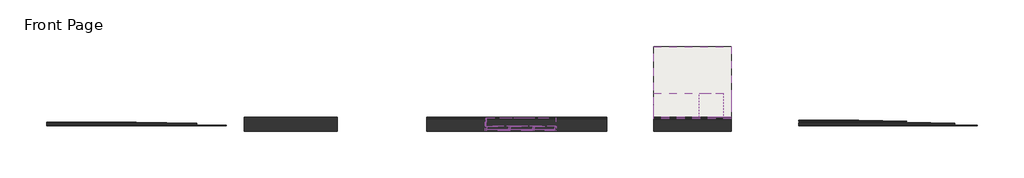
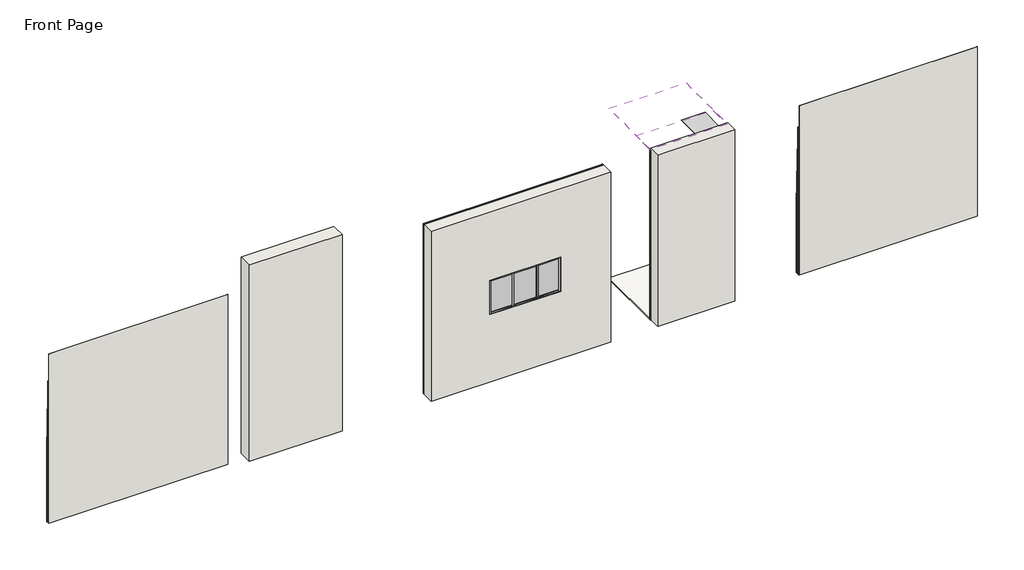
# One storey: 28 walls, 10 members, 3 plates, 3 slabs, 2 coverings, 1 proxy.
"""IFC4 building model written with IfcOpenShell, lengths in millimetres."""

from ifc_helpers import new_model, si_unit, frame, origin, origin_with_axes, place, context, project, spatial, polyline, outline, extrude, faceted_brep, transform, mapped, element, save
from ifc_brep_helpers import plane_surface, spline_surface, advanced_brep
from components import rectangular_mullion_50_x_150mm_8a1ff190, rectangular_mullion_50_x_150mm_67db062b, rectangular_mullion_50_x_150mm_a0b78ac3, rectangular_mullion_50_x_150mm_648e3154, rectangular_mullion_50_x_150mm_9df94d2e, system_panel_glazed_34aa382c, system_panel_glazed_7adb5765, system_panel_glazed_bc678703

model = new_model("IFC4")

# Units and contexts
model_context = context("Model", 3, world=origin())
ifc_project = project(units=[si_unit("LENGTHUNIT", "METRE", prefix="MILLI")], contexts=[model_context])

# Site, building, storey
site = spatial("IfcSite", under=ifc_project)
building = spatial("IfcBuilding", under=site)
storey = spatial("IfcBuildingStorey", under=building, Name="Front Page", Elevation=0.0)

# Proxy
placement = place(None, origin())
element("IfcBuildingElementProxy", 1, Name="Corner : Corner", ObjectType="Corner : Corner", at=placement, inside=storey, context=model_context, shape_type="AdvancedBrep", body=[
    advanced_brep(
    [(30432.4365532, 1501.9269611, 5987.0), (30432.4365532, 701.9269611, 5987.0), (30432.4365532, 701.9269611, 5992.0), (30432.4365532, 1501.9269611, 5992.0), (31232.4365532, 701.9269611, 5964.0), (31232.4365532, 701.9269611, 5992.0), (31232.4365532, 1501.9269611, 5987.0), (31232.4365532, 1501.9269611, 5992.0)],
    [
        (0, 1),
        (1, 2),
        (2, 3),
        (3, 0),
        (1, 4),
        (4, 5),
        (5, 2),
        (4, 6),
        (6, 7),
        (7, 5),
        (6, 0),
        (3, 7),
    ],
    [
        plane_surface(frame((30432.4365532, 1101.9269611, 5987.0), z_axis=(-1.0, 0.0, 0.0), x_axis=(0.0, -1.0, 0.0))),
        plane_surface(frame((30832.4365532, 701.9269611, 5975.5), z_axis=(0.0, -1.0, 0.0), x_axis=(1.0, 0.0, 0.0))),
        plane_surface(frame((31232.4365532, 1101.9269611, 5975.5), z_axis=(1.0, 0.0, 0.0), x_axis=(0.0, 1.0, 0.0))),
        plane_surface(frame((30832.4365532, 1501.9269611, 5987.0), z_axis=(0.0, 1.0, 0.0), x_axis=(-1.0, 0.0, 0.0))),
        plane_surface(frame((30832.4365532, 1101.9269611, 5992.0), z_axis=(0.0, 0.0, 1.0), x_axis=(0.0, 1.0, 0.0))),
        spline_surface(1, 1, [[(31232.4365532, 1501.9269611, 5987.0), (30432.4365532, 1501.9269611, 5987.0)], [(31232.4365532, 701.9269611, 5964.0), (30432.4365532, 701.9269611, 5987.0)]], [2, 2], [2, 2], [0.0, 1.0], [0.0, 1.0]),
    ],
    [
        (0, [[1, 2, 3, 4]]),
        (1, [[5, 6, 7, -2]]),
        (2, [[8, 9, 10, -6]]),
        (3, [[11, -4, 12, -9]]),
        (4, [[-10, -12, -3, -7]]),
        (5, [[-11, -8, -5, -1]]),
    ],
),
])

# Coverings
element("IfcCovering", 2, ObjectType="SkamoWall Wedge", at=placement, inside=storey, context=model_context, shape_type="SweptSolid", body=[
    extrude(outline(polyline([(28914.3740532, 704.7069818), (28914.3740532, 1501.9269611), (31494.3740532, 1501.9269611), (31494.3740532, 704.7069818), (28914.3740532, 704.7069818)])), frame((0.0, 0.0, 5972.0), z_axis=(0.0, 0.0, 1.0), x_axis=(1.0, 0.0, 0.0)), (0.0, 0.0, 1.0), 28.0),
])
element("IfcCovering", 3, ObjectType="Plain", at=placement, inside=storey, context=model_context, shape_type="SweptSolid", body=[
    extrude(outline(polyline([(28914.3740532, 643.7069818), (28914.3740532, 3059.7069818), (31494.3740532, 3059.7069818), (31494.3740532, 643.7069818), (28914.3740532, 643.7069818)])), frame((0.0, 0.0, 6000.0), z_axis=(0.0, 0.0, 1.0), x_axis=(1.0, 0.0, 0.0)), (0.0, 0.0, 1.0), 57.0),
])

# Members
rectangular_mullion_50_x_150mm_shape = rectangular_mullion_50_x_150mm_8a1ff190(model_context)
element("IfcMember", 4, ObjectType="Rectangular Mullion : 50 x 150mm", at=placement, inside=storey, context=model_context, shape_type="MappedRepresentation", body=[
    mapped(rectangular_mullion_50_x_150mm_shape, transform((24123.7000967, 330.3189246, 3589.3132869), x_axis=(0.0, 0.0, 1.0), y_axis=(0.0, 1.0, 0.0), z_axis=(-1.0, 0.0, 0.0))),
])
rectangular_mullion_50_x_150mm_2_shape = rectangular_mullion_50_x_150mm_67db062b(model_context)
element("IfcMember", 5, ObjectType="Rectangular Mullion : 50 x 150mm", at=placement, inside=storey, context=model_context, shape_type="MappedRepresentation", body=[
    mapped(rectangular_mullion_50_x_150mm_2_shape, transform((24906.7000967, 330.3189246, 2377.3132869), x_axis=(-1.0, 0.0, 0.0), y_axis=(0.0, 1.0, 0.0), z_axis=(0.0, 0.0, -1.0))),
])
element("IfcMember", 6, ObjectType="Rectangular Mullion : 50 x 150mm", at=placement, inside=storey, context=model_context, shape_type="MappedRepresentation", body=[
    mapped(rectangular_mullion_50_x_150mm_2_shape, transform((24098.7000967, 330.3189246, 2377.3132869), x_axis=(-1.0, 0.0, 0.0), y_axis=(0.0, 1.0, 0.0), z_axis=(0.0, 0.0, -1.0))),
])
element("IfcMember", 7, ObjectType="Rectangular Mullion : 50 x 150mm", at=placement, inside=storey, context=model_context, shape_type="MappedRepresentation", body=[
    mapped(rectangular_mullion_50_x_150mm_shape, transform((24881.7000967, 330.3189246, 2377.3132869), x_axis=(0.0, 0.0, -1.0), y_axis=(0.0, 1.0, 0.0), z_axis=(1.0, 0.0, 0.0))),
])
rectangular_mullion_50_x_150mm_3_shape = rectangular_mullion_50_x_150mm_a0b78ac3(model_context)
element("IfcMember", 8, ObjectType="Rectangular Mullion : 50 x 150mm", at=placement, inside=storey, context=model_context, shape_type="MappedRepresentation", body=[
    mapped(rectangular_mullion_50_x_150mm_3_shape, transform((25670.6535244, 330.3189246, 3589.3132869), x_axis=(1.0, 0.0, 0.0), y_axis=(0.0, 1.0, 0.0), z_axis=(0.0, 0.0, 1.0))),
])
element("IfcMember", 9, ObjectType="Rectangular Mullion : 50 x 150mm", at=placement, inside=storey, context=model_context, shape_type="MappedRepresentation", body=[
    mapped(rectangular_mullion_50_x_150mm_3_shape, transform((23302.2000967, 330.3189246, 2377.3132869), x_axis=(-1.0, 0.0, 0.0), y_axis=(0.0, 1.0, 0.0), z_axis=(0.0, 0.0, -1.0))),
])
rectangular_mullion_50_x_150mm_4_shape = rectangular_mullion_50_x_150mm_648e3154(model_context)
element("IfcMember", 10, ObjectType="Rectangular Mullion : 50 x 150mm", at=placement, inside=storey, context=model_context, shape_type="MappedRepresentation", body=[
    mapped(rectangular_mullion_50_x_150mm_4_shape, transform((24931.7000967, 330.3189246, 3589.3132869), x_axis=(0.0, 0.0, 1.0), y_axis=(0.0, 1.0, 0.0), z_axis=(-1.0, 0.0, 0.0))),
])
element("IfcMember", 11, ObjectType="Rectangular Mullion : 50 x 150mm", at=placement, inside=storey, context=model_context, shape_type="MappedRepresentation", body=[
    mapped(rectangular_mullion_50_x_150mm_4_shape, transform((25620.6535244, 330.3189246, 2377.3132869), x_axis=(0.0, 0.0, -1.0), y_axis=(0.0, 1.0, 0.0), z_axis=(1.0, 0.0, 0.0))),
])
rectangular_mullion_50_x_150mm_5_shape = rectangular_mullion_50_x_150mm_9df94d2e(model_context)
element("IfcMember", 12, ObjectType="Rectangular Mullion : 50 x 150mm", at=placement, inside=storey, context=model_context, shape_type="MappedRepresentation", body=[
    mapped(rectangular_mullion_50_x_150mm_5_shape, transform((23352.2000967, 330.3189246, 3589.3132869), x_axis=(0.0, 0.0, 1.0), y_axis=(0.0, 1.0, 0.0), z_axis=(-1.0, 0.0, 0.0))),
])
element("IfcMember", 13, ObjectType="Rectangular Mullion : 50 x 150mm", at=placement, inside=storey, context=model_context, shape_type="MappedRepresentation", body=[
    mapped(rectangular_mullion_50_x_150mm_5_shape, transform((24073.7000967, 330.3189246, 2377.3132869), x_axis=(0.0, 0.0, -1.0), y_axis=(0.0, 1.0, 0.0), z_axis=(1.0, 0.0, 0.0))),
])

# Plates
system_panel_glazed_shape = system_panel_glazed_34aa382c(model_context)
element("IfcPlate", 14, ObjectType="System Panel : Glazed", at=placement, inside=storey, context=model_context, shape_type="MappedRepresentation", body=[
    mapped(system_panel_glazed_shape, transform((24502.7000967, 330.3189246, 2427.3132869), x_axis=(-1.0, 0.0, 0.0), y_axis=(0.0, -1.0, 0.0), z_axis=(0.0, 0.0, 1.0))),
])
system_panel_glazed_2_shape = system_panel_glazed_7adb5765(model_context)
element("IfcPlate", 15, ObjectType="System Panel : Glazed", at=placement, inside=storey, context=model_context, shape_type="MappedRepresentation", body=[
    mapped(system_panel_glazed_2_shape, transform((25276.1768106, 330.3189246, 2427.3132869), x_axis=(-1.0, 0.0, 0.0), y_axis=(0.0, -1.0, 0.0), z_axis=(0.0, 0.0, 1.0))),
])
system_panel_glazed_3_shape = system_panel_glazed_bc678703(model_context)
element("IfcPlate", 16, ObjectType="System Panel : Glazed", at=placement, inside=storey, context=model_context, shape_type="MappedRepresentation", body=[
    mapped(system_panel_glazed_3_shape, transform((23712.9500967, 330.3189246, 2427.3132869), x_axis=(-1.0, 0.0, 0.0), y_axis=(0.0, -1.0, 0.0), z_axis=(0.0, 0.0, 1.0))),
])

# Slabs
element("IfcSlab", 17, ObjectType="Bore samlet", at=placement, inside=storey, context=model_context, shape_type="SweptSolid", body=[
    extrude(outline(polyline([(25648.7000967, 405.3189246), (23327.2625967, 405.3189246), (23327.2625967, 688.3501746), (25648.7000967, 688.3501746), (25648.7000967, 405.3189246)])), frame((0.0, 0.0, 2377.0), z_axis=(0.0, 0.0, 1.0), x_axis=(1.0, 0.0, 0.0)), (0.0, 0.0, 1.0), 44.0),
])
element("IfcSlab", 18, ObjectType="Bore samlet omv", at=placement, inside=storey, context=model_context, shape_type="SweptSolid", body=[
    extrude(outline(polyline([(25648.7000967, 405.3189246), (23313.2000967, 405.3189246), (23313.2000967, 689.3501746), (25648.7000967, 689.3501746), (25648.7000967, 405.3189246)])), frame((0.0, 0.0, 3545.313228), z_axis=(0.0, 0.0, 1.0), x_axis=(1.0, 0.0, 0.0)), (0.0, 0.0, 1.0), 44.0),
])
element("IfcSlab", 19, ObjectType="Floor", at=placement, inside=storey, context=model_context, shape_type="SweptSolid", body=[
    extrude(outline(polyline([(28914.3740532, 643.7069818), (28914.3740532, 3059.7069818), (31494.3740532, 3059.7069818), (31494.3740532, 643.7069818), (28914.3740532, 643.7069818)])), frame((0.0, 0.0, -44.0), z_axis=(0.0, 0.0, 1.0), x_axis=(1.0, 0.0, 0.0)), (0.0, 0.0, 1.0), 44.0),
])

# Walls
element("IfcWall", 20, ObjectType="Skamol Lime Mortar", at=placement, inside=storey, context=model_context, shape_type="SweptSolid", body=[
    extrude(outline(polyline([(14655.2832575, 423.1423036), (8672.7832575, 423.1423036), (8672.7832575, 431.1423036), (14655.2832575, 431.1423036), (14655.2832575, 423.1423036)])), origin_with_axes(), (0.0, 0.0, 1.0), 6000.0),
])
element("IfcWall", 21, ObjectType="SkamoWall Board 50mm", at=placement, inside=storey, context=model_context, shape_type="SweptSolid", body=[
    extrude(outline(polyline([(13672.7832575, 449.8766786), (8672.7832575, 449.8766786), (8672.7832575, 499.8766786), (13672.7832575, 499.8766786), (13672.7832575, 449.8766786)])), origin_with_axes(), (0.0, 0.0, 1.0), 5000.0),
])
element("IfcWall", 22, ObjectType="Skamol Smooth Plaster", at=placement, inside=storey, context=model_context, shape_type="SweptSolid", body=[
    extrude(outline(polyline([(11663.5645075, 542.1305848), (8663.5645075, 542.1305848), (8663.5645075, 543.1305848), (11663.5645075, 543.1305848), (11663.5645075, 542.1305848)])), origin_with_axes(), (0.0, 0.0, 1.0), 3000.0),
])
element("IfcWall", 23, ObjectType="Skamol Lime Mortar", at=placement, inside=storey, context=model_context, shape_type="SweptSolid", body=[
    extrude(outline(polyline([(23310.2000967, 643.7069818), (23310.2000967, 410.3189246), (23302.2000967, 410.3189246), (23302.2000967, 643.7069818), (23310.2000967, 643.7069818)])), frame((0.0, 0.0, 2377.3132869), z_axis=(0.0, 0.0, 1.0), x_axis=(1.0, 0.0, 0.0)), (0.0, 0.0, 1.0), 1212.0),
])
element("IfcWall", 24, ObjectType="Example of how to use Skamol Wall as a material", at=placement, inside=storey, context=model_context, shape_type="SweptSolid", body=[
    extrude(outline(polyline([(18363.8136676, 235.7069818), (15263.8136676, 235.7069818), (15263.8136676, 703.7069818), (18363.8136676, 703.7069818), (18363.8136676, 235.7069818)])), origin_with_axes(), (0.0, 0.0, 1.0), 6941.2486873),
])
element("IfcWall", 25, ObjectType="Skamol Primer", at=placement, inside=storey, context=model_context, shape_type="SweptSolid", body=[
    extrude(outline(polyline([(12669.8145075, 523.8766786), (8669.8145075, 523.8766786), (8669.8145075, 524.8766786), (12669.8145075, 524.8766786), (12669.8145075, 523.8766786)])), origin_with_axes(), (0.0, 0.0, 1.0), 4000.0),
])
element("IfcWall", 26, ObjectType="Skamol Lime Mortar", at=placement, inside=storey, context=model_context, shape_type="SweptSolid", body=[
    extrude(outline(polyline([(31494.3740532, 643.7069818), (28914.3740532, 643.7069818), (28914.3740532, 651.7069818), (31494.3740532, 651.7069818), (31494.3740532, 643.7069818)])), frame((0.0, 0.0, -5.0), z_axis=(0.0, 0.0, 1.0), x_axis=(1.0, 0.0, 0.0)), (0.0, 0.0, 1.0), 6000.0),
])
element("IfcWall", 27, ObjectType="SkamoWall Board 50mm", at=placement, inside=storey, context=model_context, shape_type="SweptSolid", body=[
    extrude(outline(polyline([(31494.3740532, 652.7069818), (28914.3740532, 652.7069818), (28914.3740532, 702.7069818), (31494.3740532, 702.7069818), (31494.3740532, 652.7069818)])), frame((0.0, 0.0, -5.0), z_axis=(0.0, 0.0, 1.0), x_axis=(1.0, 0.0, 0.0)), (0.0, 0.0, 1.0), 6000.0),
])
element("IfcWall", 28, ObjectType="Skamol Primer", at=placement, inside=storey, context=model_context, shape_type="SweptSolid", body=[
    extrude(outline(polyline([(31494.3740532, 651.7069818), (28914.3740532, 651.7069818), (28914.3740532, 652.7069818), (31494.3740532, 652.7069818), (31494.3740532, 651.7069818)])), frame((0.0, 0.0, -5.0), z_axis=(0.0, 0.0, 1.0), x_axis=(1.0, 0.0, 0.0)), (0.0, 0.0, 1.0), 6000.0),
])
element("IfcWall", 29, ObjectType="Skamol Smooth Plaster", at=placement, inside=storey, context=model_context, shape_type="SweptSolid", body=[
    extrude(outline(polyline([(31494.3740532, 703.7069818), (28914.3740532, 703.7069818), (28914.3740532, 704.7069818), (31494.3740532, 704.7069818), (31494.3740532, 703.7069818)])), origin_with_axes(), (0.0, 0.0, 1.0), 6000.0),
])
element("IfcWall", 30, ObjectType="Skamol Lime Mortar", at=placement, inside=storey, context=model_context, shape_type="SweptSolid", body=[
    extrude(outline(polyline([(39713.5645075, 423.1423036), (33756.0645075, 423.1423036), (33756.0645075, 431.1423036), (39713.5645075, 431.1423036), (39713.5645075, 423.1423036)])), origin_with_axes(), (0.0, 0.0, 1.0), 6000.0),
])
element("IfcWall", 31, ObjectType="SkamoWall Board 50mm", at=placement, inside=storey, context=model_context, shape_type="SweptSolid", body=[
    extrude(outline(polyline([(38956.0645075, 449.8766786), (33756.0645075, 449.8766786), (33756.0645075, 499.8766786), (38956.0645075, 499.8766786), (38956.0645075, 449.8766786)])), origin_with_axes(), (0.0, 0.0, 1.0), 5200.0),
])
element("IfcWall", 32, ObjectType="Skamol Smooth Plaster", at=placement, inside=storey, context=model_context, shape_type="SweptSolid", body=[
    extrude(outline(polyline([(37358.5645075, 561.1305848), (33758.5645075, 561.1305848), (33758.5645075, 562.1305848), (37358.5645075, 562.1305848), (37358.5645075, 561.1305848)])), origin_with_axes(), (0.0, 0.0, 1.0), 3600.0),
])
element("IfcWall", 33, ObjectType="Skamol Mesh", at=placement, inside=storey, context=model_context, shape_type="SweptSolid", body=[
    extrude(outline(polyline([(36556.0645075, 580.1305848), (33756.0645075, 580.1305848), (33756.0645075, 585.1305848), (36556.0645075, 585.1305848), (36556.0645075, 580.1305848)])), origin_with_axes(), (0.0, 0.0, 1.0), 2800.0),
])
element("IfcWall", 34, ObjectType="Skamol Primer", at=placement, inside=storey, context=model_context, shape_type="SweptSolid", body=[
    extrude(outline(polyline([(38156.0645075, 525.1266786), (33756.0645075, 525.1266786), (33756.0645075, 526.1266786), (38156.0645075, 526.1266786), (38156.0645075, 525.1266786)])), origin_with_axes(), (0.0, 0.0, 1.0), 4400.0),
])
element("IfcWall", 35, ObjectType="Skamol Smooth Plaster", at=placement, inside=storey, context=model_context, shape_type="SweptSolid", body=[
    extrude(outline(polyline([(35756.0645075, 595.1305848), (33756.0645075, 595.1305848), (33756.0645075, 596.1305848), (35756.0645075, 596.1305848), (35756.0645075, 595.1305848)])), origin_with_axes(), (0.0, 0.0, 1.0), 2000.0),
])
element("IfcWall", 36, ObjectType="Skamol Primer", at=placement, inside=storey, context=model_context, shape_type="SweptSolid", body=[
    extrude(outline(polyline([(31494.3740532, 702.7069818), (28914.3740532, 702.7069818), (28914.3740532, 703.7069818), (31494.3740532, 703.7069818), (31494.3740532, 702.7069818)])), origin_with_axes(), (0.0, 0.0, 1.0), 6000.0),
])
element("IfcWall", 37, ObjectType="Skamol Lime Mortar", at=placement, inside=storey, context=model_context, shape_type="Brep", body=[
    faceted_brep([(21344.985996, 643.7069818, -5.0), (27344.985996, 643.7069818, -5.0), (27344.985996, 643.7069818, 0.0), (27344.985996, 643.7069818, 5995.0), (21344.985996, 643.7069818, 5995.0), (21344.985996, 643.7069818, 0.0), (25670.6535244, 643.7069818, 3589.3132869), (25670.6535244, 643.7069818, 2377.3132869), (23302.2000967, 643.7069818, 2377.3132869), (23302.2000967, 643.7069818, 3589.3132869), (27344.985996, 651.7069818, -5.0), (21344.985996, 651.7069818, -5.0), (21344.985996, 651.7069818, 5995.0), (27344.985996, 651.7069818, 5995.0), (25670.6535244, 651.7069818, 2377.3132869), (25670.6535244, 651.7069818, 3589.3132869), (23302.2000967, 651.7069818, 3589.3132869), (23302.2000967, 651.7069818, 2377.3132869)], [[[0, 1, 2, 3, 4, 5], [6, 7, 8, 9]], [[10, 11, 12, 13], [14, 15, 16, 17]], [[1, 0, 11, 10]], [[3, 2, 1, 10, 13]], [[4, 3, 13, 12]], [[0, 5, 4, 12, 11]], [[14, 7, 6, 15]], [[15, 6, 9, 16]], [[16, 9, 8, 17]], [[7, 14, 17, 8]]]),
])
element("IfcWall", 38, ObjectType="SkamoWall Board 50mm", at=placement, inside=storey, context=model_context, shape_type="Brep", body=[
    faceted_brep([(21344.985996, 652.7069818, -5.0), (27344.985996, 652.7069818, -5.0), (27344.985996, 652.7069818, 5995.0), (21344.985996, 652.7069818, 5995.0), (23302.2000967, 652.7069818, 3589.3132869), (25670.6535244, 652.7069818, 3589.3132869), (25670.6535244, 652.7069818, 2377.3132869), (23302.2000967, 652.7069818, 2377.3132869), (27344.985996, 702.7069818, -5.0), (21344.985996, 702.7069818, -5.0), (21344.985996, 702.7069818, 0.0), (21344.985996, 702.7069818, 5995.0), (27344.985996, 702.7069818, 5995.0), (27344.985996, 702.7069818, 0.0), (25670.6535244, 702.7069818, 3589.3132869), (23302.2000967, 702.7069818, 3589.3132869), (23302.2000967, 702.7069818, 2377.3132869), (25670.6535244, 702.7069818, 2377.3132869)], [[[0, 1, 2, 3], [4, 5, 6, 7]], [[8, 9, 10, 11, 12, 13], [14, 15, 16, 17]], [[1, 0, 9, 8]], [[2, 1, 8, 13, 12]], [[3, 2, 12, 11]], [[0, 3, 11, 10, 9]], [[4, 15, 14, 5]], [[6, 17, 16, 7]], [[17, 6, 5, 14]], [[15, 4, 7, 16]]]),
])
element("IfcWall", 39, ObjectType="Skamol Primer", at=placement, inside=storey, context=model_context, shape_type="SweptSolid", body=[
    extrude(outline(polyline([(-5.0, 21344.985996), (-5.0, 27344.985996), (5995.0, 27344.985996), (5995.0, 21344.985996), (-5.0, 21344.985996)]), holes=[polyline([(247.2125952, 25796.8088363), (247.2125952, 25811.9428704), (226.5081939, 25811.9428704), (226.5081939, 25796.8088363), (247.2125952, 25796.8088363)]), polyline([(3589.3132869, 23302.2000967), (3589.3132869, 25670.6535244), (2377.3132869, 25670.6535244), (2377.3132869, 23302.2000967), (3589.3132869, 23302.2000967)])]), frame((0.0, 651.7069818, 0.0), z_axis=(0.0, 1.0, 0.0), x_axis=(0.0, 0.0, 1.0)), (0.0, 0.0, 1.0), 1.0),
])
element("IfcWall", 40, ObjectType="Skamol Smooth Plaster", at=placement, inside=storey, context=model_context, shape_type="SweptSolid", body=[
    extrude(outline(polyline([(0.0, 21344.985996), (0.0, 27344.985996), (6000.0, 27344.985996), (6000.0, 21344.985996), (0.0, 21344.985996)]), holes=[polyline([(3589.3132869, 23302.2000967), (3589.3132869, 25670.6535244), (2377.3132869, 25670.6535244), (2377.3132869, 23302.2000967), (3589.3132869, 23302.2000967)])]), frame((0.0, 703.7069818, 0.0), z_axis=(0.0, 1.0, 0.0), x_axis=(0.0, 0.0, 1.0)), (0.0, 0.0, 1.0), 1.0),
])
element("IfcWall", 41, ObjectType="Skamol Primer", at=placement, inside=storey, context=model_context, shape_type="Brep", body=[
    faceted_brep([(21344.985996, 702.7069818, 0.0), (27344.985996, 702.7069818, 0.0), (27344.985996, 702.7069818, 5995.0), (27344.985996, 702.7069818, 6000.0), (21344.985996, 702.7069818, 6000.0), (21344.985996, 702.7069818, 5995.0), (25670.6535244, 702.7069818, 2377.3132869), (23302.2000967, 702.7069818, 2377.3132869), (23302.2000967, 702.7069818, 3589.3132869), (25670.6535244, 702.7069818, 3589.3132869), (27344.985996, 703.7069818, 0.0), (21344.985996, 703.7069818, 0.0), (21344.985996, 703.7069818, 6000.0), (27344.985996, 703.7069818, 6000.0), (25670.6535244, 703.7069818, 3589.3132869), (23302.2000967, 703.7069818, 3589.3132869), (23302.2000967, 703.7069818, 2377.3132869), (25670.6535244, 703.7069818, 2377.3132869)], [[[0, 1, 2, 3, 4, 5], [6, 7, 8, 9]], [[10, 11, 12, 13], [14, 15, 16, 17]], [[1, 0, 11, 10]], [[3, 2, 1, 10, 13]], [[4, 3, 13, 12]], [[0, 5, 4, 12, 11]], [[8, 7, 16, 15]], [[8, 15, 14, 9]], [[6, 17, 16, 7]], [[17, 6, 9, 14]]]),
])
element("IfcWall", 42, ObjectType="Skamol Primer", at=placement, inside=storey, context=model_context, shape_type="SweptSolid", body=[
    extrude(outline(polyline([(23311.2000967, 643.7069818), (23311.2000967, 410.3189246), (23310.2000967, 410.3189246), (23310.2000967, 643.7069818), (23311.2000967, 643.7069818)])), frame((0.0, 0.0, 2377.3132869), z_axis=(0.0, 0.0, 1.0), x_axis=(1.0, 0.0, 0.0)), (0.0, 0.0, 1.0), 1212.0),
])
element("IfcWall", 43, ObjectType="SkamoWall Bore 19mm", at=placement, inside=storey, context=model_context, shape_type="SweptSolid", body=[
    extrude(outline(polyline([(23330.2000967, 643.7069818), (23330.2000967, 410.3189246), (23311.2000967, 410.3189246), (23311.2000967, 643.7069818), (23330.2000967, 643.7069818)])), frame((0.0, 0.0, 2377.3132869), z_axis=(0.0, 0.0, 1.0), x_axis=(1.0, 0.0, 0.0)), (0.0, 0.0, 1.0), 1212.0),
])
element("IfcWall", 44, ObjectType="Skamol Primer", at=placement, inside=storey, context=model_context, shape_type="SweptSolid", body=[
    extrude(outline(polyline([(23331.2000967, 643.7069818), (23331.2000967, 410.3189246), (23330.2000967, 410.3189246), (23330.2000967, 643.7069818), (23331.2000967, 643.7069818)])), frame((0.0, 0.0, 2377.3132869), z_axis=(0.0, 0.0, 1.0), x_axis=(1.0, 0.0, 0.0)), (0.0, 0.0, 1.0), 1212.0),
])
element("IfcWall", 45, ObjectType="Skamol Smooth Plaster", at=placement, inside=storey, context=model_context, shape_type="SweptSolid", body=[
    extrude(outline(polyline([(23332.2000967, 643.7069818), (23332.2000967, 410.3189246), (23331.2000967, 410.3189246), (23331.2000967, 643.7069818), (23332.2000967, 643.7069818)])), frame((0.0, 0.0, 2377.3132869), z_axis=(0.0, 0.0, 1.0), x_axis=(1.0, 0.0, 0.0)), (0.0, 0.0, 1.0), 1212.0),
])
element("IfcWall", 46, ObjectType="a1", at=placement, inside=storey, context=model_context, shape_type="Brep", body=[
    faceted_brep([(21344.985996, 235.7069818, 0.0), (27344.985996, 235.7069818, 0.0), (27344.985996, 235.7069818, 6000.0), (21344.985996, 235.7069818, 6000.0), (25670.6535244, 235.7069818, 3589.3132869), (25670.6535244, 235.7069818, 2377.3132869), (23302.2000967, 235.7069818, 2377.3132869), (23302.2000967, 235.7069818, 3589.3132869), (27344.985996, 643.7069818, 0.0), (21344.985996, 643.7069818, 0.0), (21344.985996, 643.7069818, 5995.0), (21344.985996, 643.7069818, 6000.0), (27344.985996, 643.7069818, 6000.0), (27344.985996, 643.7069818, 5995.0), (25670.6535244, 643.7069818, 2377.3132869), (25670.6535244, 643.7069818, 3589.3132869), (23302.2000967, 643.7069818, 3589.3132869), (23302.2000967, 643.7069818, 2377.3132869)], [[[0, 1, 2, 3], [4, 5, 6, 7]], [[8, 9, 10, 11, 12, 13], [14, 15, 16, 17]], [[1, 0, 9, 8]], [[2, 1, 8, 13, 12]], [[3, 2, 12, 11]], [[0, 3, 11, 10, 9]], [[14, 5, 4, 15]], [[15, 4, 7, 16]], [[16, 7, 6, 17]], [[5, 14, 17, 6]]]),
])
element("IfcWall", 47, ObjectType="a1", at=placement, inside=storey, context=model_context, shape_type="SweptSolid", body=[
    extrude(outline(polyline([(31494.3740532, 235.7069818), (28914.3740532, 235.7069818), (28914.3740532, 643.7069818), (31494.3740532, 643.7069818), (31494.3740532, 235.7069818)])), frame((0.0, 0.0, -10.0), z_axis=(0.0, 0.0, 1.0), x_axis=(1.0, 0.0, 0.0)), (0.0, 0.0, 1.0), 6067.0),
])

save(model, "model.ifc")
